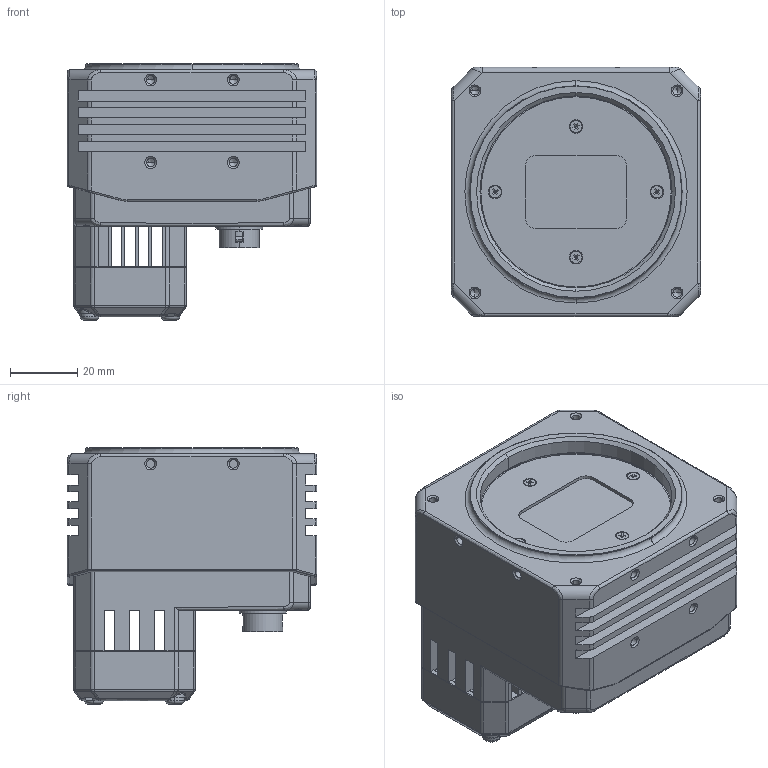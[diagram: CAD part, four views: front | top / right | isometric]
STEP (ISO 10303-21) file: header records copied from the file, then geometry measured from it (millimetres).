
FILE_DESCRIPTION((''),'2;1');
FILE_NAME('00-31MP-RJ45_ASM_ASM','2020-10-09T13:50:17',('wangyijun6'),(''),'CREO PARAMETRIC BY PTC INC, 2017260','CREO PARAMETRIC BY PTC INC, 2017260','');
FILE_SCHEMA(('CONFIG_CONTROL_DESIGN'));
Products named in the file (1): 00-31MP-RJ45_ASM_ASM
Bounding box: 74 x 74 x 76.08 mm (x, y, z)
Volume: 236878.1 mm3; surface area: 57428.7 mm2
Topology: 2 solids, 36 shells, 2325 faces, 6592 edges, 4303 vertices
Faces by surface type: plane 1187, cylinder 705, cone 202, bspline 143, torus 56, extrusion 24, revolution 4, sphere 4
Entity records: 88288 total; most frequent: CARTESIAN_POINT 28732, ORIENTED_EDGE 12702, DIRECTION 11826, EDGE_CURVE 6540, VERTEX_POINT 4303, VECTOR 4028, LINE 4004, AXIS2_PLACEMENT_3D 3897
